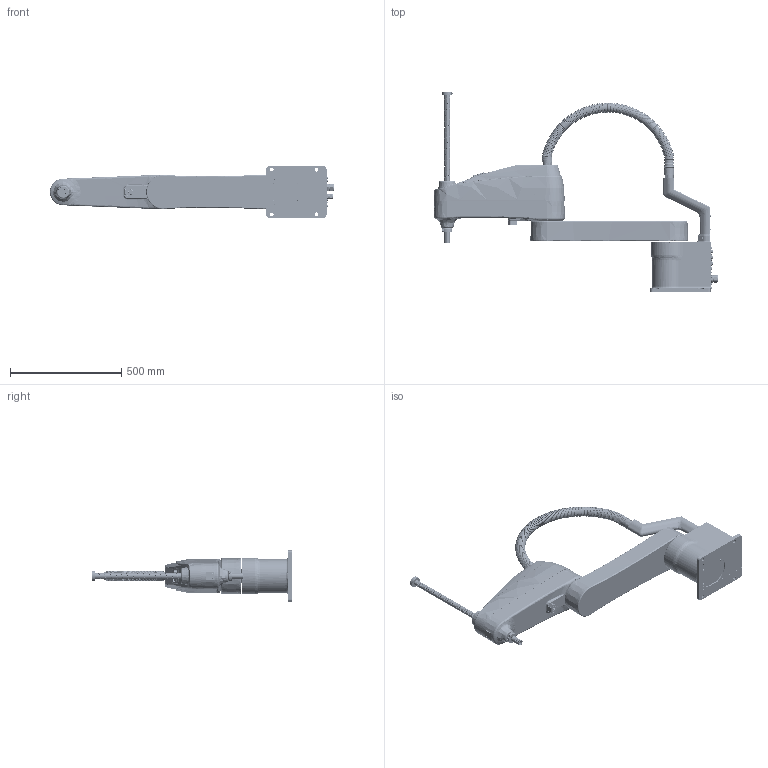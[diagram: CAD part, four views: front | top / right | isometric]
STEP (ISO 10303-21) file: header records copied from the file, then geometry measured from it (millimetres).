
FILE_DESCRIPTION (( 'STEP AP214' ), '1' );
FILE_NAME ('1000楷俋賦凳.STEP', '2021-11-04T01:07:01', ( '' ), ( '' ), 'SwSTEP 2.0', 'SolidWorks 2020', '' );
FILE_SCHEMA (( 'AUTOMOTIVE_DESIGN' ));
Length unit declared in the file: millimetre
Products named in the file (5): 菁釱樓奪; 佪裝; 1000楷俋賦凳; 苤旋郪璃; 湮旋
Assembly tree (4 placements, depth 2):
  1000楷俋賦凳
    湮旋
    菁釱樓奪
    苤旋郪璃
    佪裝
Bounding box: 1277.5 x 902.2 x 230 mm (x, y, z)
Volume: 33857700 mm3; surface area: 2043565 mm2
Topology: 60 solids, 68 shells, 7035 faces, 17449 edges, 11312 vertices
Faces by surface type: plane 4357, cylinder 1237, cone 889, torus 350, bspline 178, sphere 24
Full cylindrical faces by diameter (mm): 2.261 x6, 2.5 x8, 2.8 x4, 3 x3, 3.25 x1, 3.3 x4, 3.5 x4, 3.75 x1, 4 x24, 4.5 x24, 5 x12, 5.4 x3, 5.5 x6, 6 x7, 6.3 x2, 6.5 x2, 7 x7, 7.3 x6, 8.5 x8, 9 x3, 10 x3, 10.5 x4, 10.917 x2, 11 x6, 12 x9, 12.917 x4, 13 x1, 14 x6, 15 x2, 16 x4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
Entity records: 331939 total; most frequent: CARTESIAN_POINT 96065, ORIENTED_EDGE 31468, DIRECTION 30899, EDGE_CURVE 15734, VERTEX_POINT 10900, VECTOR 10649, LINE 10649, AXIS2_PLACEMENT_3D 10125
